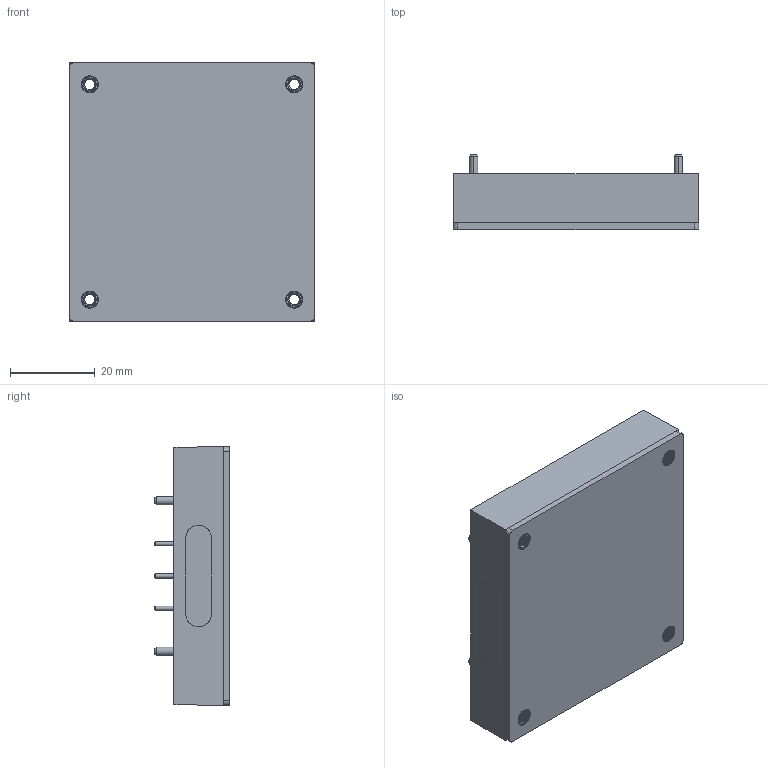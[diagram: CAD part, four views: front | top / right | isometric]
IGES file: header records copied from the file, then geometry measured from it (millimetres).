
Start section: SolidWorks IGES file using analytic representation for surfaces
Global section: file name: C:\Users\ksmith.XPNA\Desktop\QSB200\QSB200.IGS; native system: SolidWorks 2017; preprocessor: SolidWorks 2017; author: ksmith; date: 170803.081335; units: inch
Bounding box: 57.9 x 17.7 x 61 mm (x, y, z)
Surface area: 30656.3 mm2 (no closed solid volume)
Topology: 0 solids, 0 shells, 1109 faces, 14783 edges, 14775 vertices
Faces by surface type: bspline 625, revolution 484
